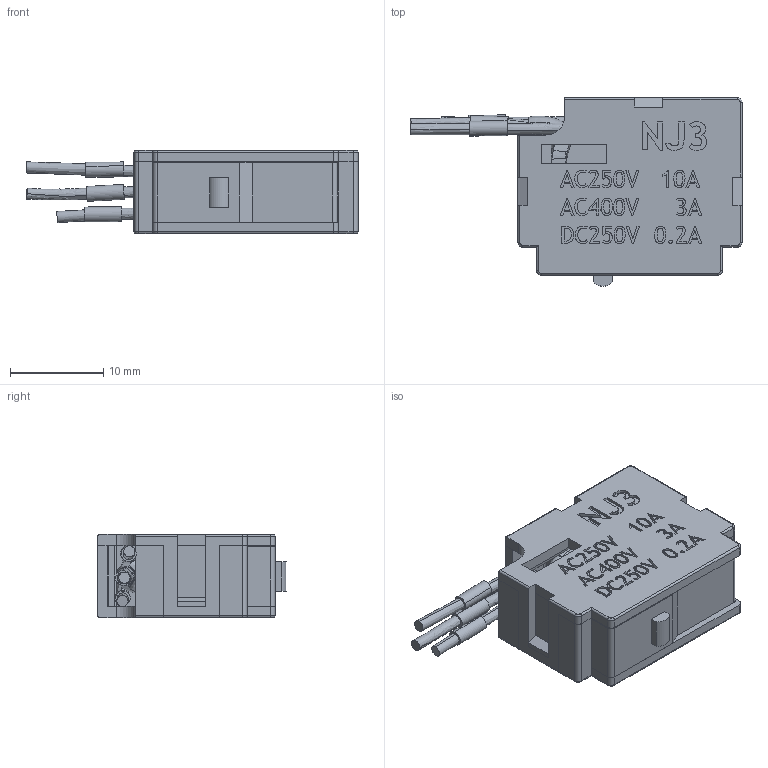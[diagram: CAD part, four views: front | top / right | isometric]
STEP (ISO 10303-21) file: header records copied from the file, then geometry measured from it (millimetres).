
FILE_DESCRIPTION (( 'STEP AP203' ), '1' );
FILE_NAME ('惆劑.STEP', '2024-09-20T10:24:53', ( 'A' ), ( '' ), 'SwSTEP 2.0', 'SolidWorks 2018', '' );
FILE_SCHEMA (( 'CONFIG_CONTROL_DESIGN' ));
Products named in the file (1): ｱｨｾｯ_｡･__｣､
Bounding box: 35.56 x 20.2 x 8.9 mm (x, y, z)
Volume: 2775.7 mm3; surface area: 4873.8 mm2
Topology: 12 solids, 12 shells, 772 faces, 2034 edges, 1340 vertices
Faces by surface type: plane 476, bspline 209, cylinder 73, torus 14
Entity records: 49169 total; most frequent: CARTESIAN_POINT 31388, ORIENTED_EDGE 4068, DIRECTION 2857, EDGE_CURVE 2034, LINE 1375, VECTOR 1375, VERTEX_POINT 1340, EDGE_LOOP 858
